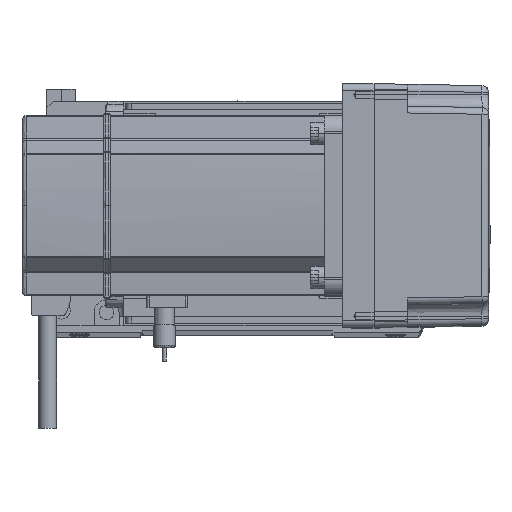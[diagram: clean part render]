
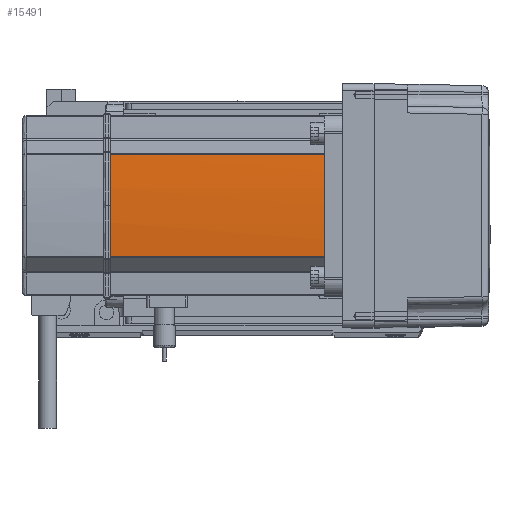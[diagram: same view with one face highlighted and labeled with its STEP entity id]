
A CAD part, top view. The second image highlights one B-rep face of the part: STEP entity #15491.
In plain terms, the highlighted cylindrical face has radius 270 mm (diameter 540 mm), a partial arc.
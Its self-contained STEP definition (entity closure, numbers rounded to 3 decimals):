
#1540 = EDGE_CURVE ( 'NONE', #48014, #31762, #29605, .T. ) ;
#2301 = DIRECTION ( 'NONE',  ( 1., 0., 0. ) ) ;
#5576 = VERTEX_POINT ( 'NONE', #45888 ) ;
#6720 = CYLINDRICAL_SURFACE ( 'NONE', #40615, 270. ) ;
#7443 = EDGE_LOOP ( 'NONE', ( #15004, #45655, #44345, #20187, #17134 ) ) ;
#12861 = CARTESIAN_POINT ( 'NONE',  ( -39.042, 22.724, 134. ) ) ;
#14024 = CARTESIAN_POINT ( 'NONE',  ( 230., 0., 0. ) ) ;
#15004 = ORIENTED_EDGE ( 'NONE', *, *, #29394, .T. ) ;
#15210 = CARTESIAN_POINT ( 'NONE',  ( 230., 0., 134. ) ) ;
#15491 = ADVANCED_FACE ( 'NONE', ( #35139 ), #6720, .T. ) ;
#17134 = ORIENTED_EDGE ( 'NONE', *, *, #1540, .T. ) ;
#18055 = AXIS2_PLACEMENT_3D ( 'NONE', #15210, #56675, #2301 ) ;
#18394 = CIRCLE ( 'NONE', #35532, 270. ) ;
#19673 = DIRECTION ( 'NONE',  ( 0., 0., 1. ) ) ;
#20187 = ORIENTED_EDGE ( 'NONE', *, *, #32226, .F. ) ;
#21029 = VECTOR ( 'NONE', #19673, 1000. ) ;
#25480 = DIRECTION ( 'NONE',  ( 0., 0., -1. ) ) ;
#26973 = CARTESIAN_POINT ( 'NONE',  ( 230., 0., 39. ) ) ;
#27505 = VERTEX_POINT ( 'NONE', #35160 ) ;
#27560 = DIRECTION ( 'NONE',  ( 0., 0., 1. ) ) ;
#29394 = EDGE_CURVE ( 'NONE', #31762, #5576, #37589, .T. ) ;
#29605 = LINE ( 'NONE', #47302, #21029 ) ;
#30172 = CARTESIAN_POINT ( 'NONE',  ( -39.042, 22.724, 0. ) ) ;
#30817 = VERTEX_POINT ( 'NONE', #12861 ) ;
#31132 = DIRECTION ( 'NONE',  ( 0., 0., -1. ) ) ;
#31762 = VERTEX_POINT ( 'NONE', #34600 ) ;
#32226 = EDGE_CURVE ( 'NONE', #48014, #27505, #18394, .T. ) ;
#32488 = VECTOR ( 'NONE', #57323, 1000. ) ;
#34600 = CARTESIAN_POINT ( 'NONE',  ( -39.042, -22.724, 134. ) ) ;
#35139 = FACE_OUTER_BOUND ( 'NONE', #7443, .T. ) ;
#35160 = CARTESIAN_POINT ( 'NONE',  ( -39.042, 22.724, 39. ) ) ;
#35532 = AXIS2_PLACEMENT_3D ( 'NONE', #26973, #31132, #58683 ) ;
#36295 = CARTESIAN_POINT ( 'NONE',  ( -39.042, -22.724, 39. ) ) ;
#37589 = CIRCLE ( 'NONE', #38878, 270. ) ;
#38878 = AXIS2_PLACEMENT_3D ( 'NONE', #52655, #25480, #57193 ) ;
#40615 = AXIS2_PLACEMENT_3D ( 'NONE', #14024, #27560, #50207 ) ;
#41286 = EDGE_CURVE ( 'NONE', #5576, #30817, #58514, .T. ) ;
#44345 = ORIENTED_EDGE ( 'NONE', *, *, #57135, .T. ) ;
#45655 = ORIENTED_EDGE ( 'NONE', *, *, #41286, .T. ) ;
#45888 = CARTESIAN_POINT ( 'NONE',  ( -40., 0., 134. ) ) ;
#47302 = CARTESIAN_POINT ( 'NONE',  ( -39.042, -22.724, 0. ) ) ;
#48014 = VERTEX_POINT ( 'NONE', #36295 ) ;
#50207 = DIRECTION ( 'NONE',  ( 1., 0., 0. ) ) ;
#52655 = CARTESIAN_POINT ( 'NONE',  ( 230., 0., 134. ) ) ;
#55209 = LINE ( 'NONE', #30172, #32488 ) ;
#56675 = DIRECTION ( 'NONE',  ( 0., 0., -1. ) ) ;
#57135 = EDGE_CURVE ( 'NONE', #30817, #27505, #55209, .T. ) ;
#57193 = DIRECTION ( 'NONE',  ( 1., 0., 0. ) ) ;
#57323 = DIRECTION ( 'NONE',  ( 0., 0., -1. ) ) ;
#58514 = CIRCLE ( 'NONE', #18055, 270. ) ;
#58683 = DIRECTION ( 'NONE',  ( 1., 0., 0. ) ) ;
